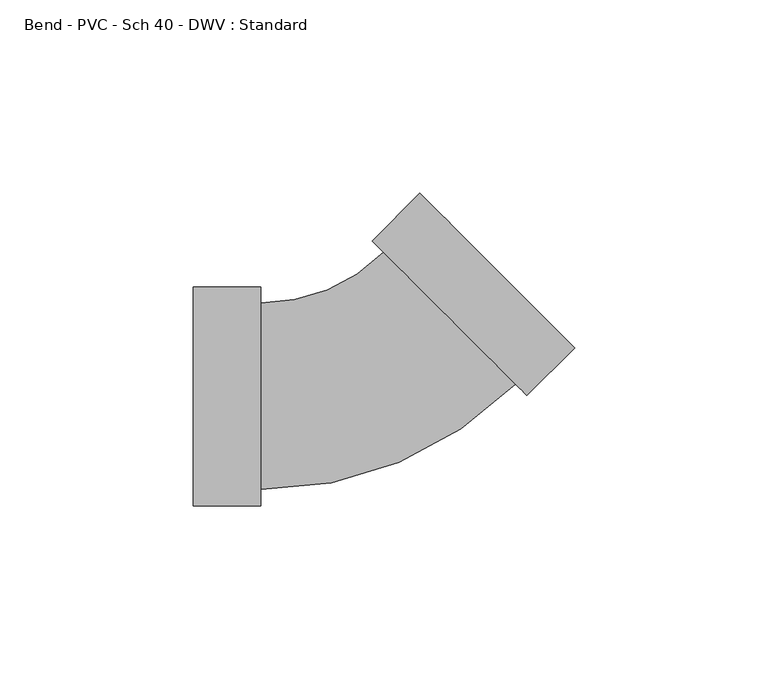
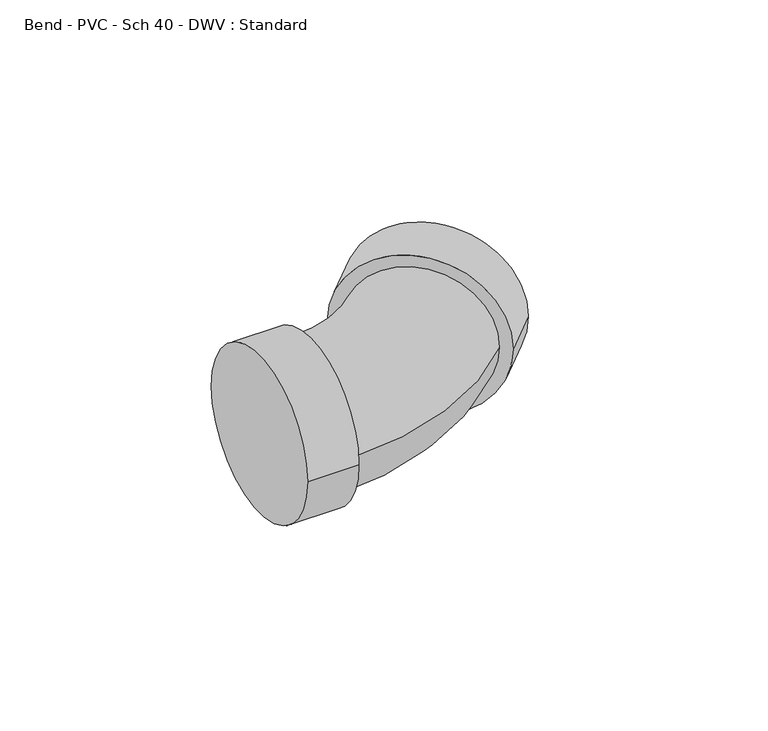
"""IFC4 building model written with IfcOpenShell, lengths in millimetres: pipe fitting geometry, Bend - PVC - Sch 40 - DWV : Standard."""

import ifcopenshell
import ifcopenshell.guid

model = None  # the IFC model being written
_history = None  # IfcOwnerHistory: only IFC2X3 demands one
_inside = {}  # id of a spatial element -> (the spatial element, [elements in it])
_under = {}  # id of a project, library or spatial element -> (it, [spatial elements below it])
_declared = {}  # id of a project -> (the project, [libraries it declares])
_typed = {}  # id of a type object -> (the type object, [elements of that type])
_made_of = {}  # id of a material, layer set ... -> (it, [elements and type objects made of it])


def new_model(schema):
    """Start an empty IFC model of exactly this schema.

    Asked for "IFC4X3", IfcOpenShell would pick the latest addendum, in which some entities
    have other attributes; the version numbers below select the first issue.
    IFC2X3 requires an IfcOwnerHistory on every rooted entity: one is made here for all.
    """
    global model, _history
    if schema == "IFC4X3":
        model = ifcopenshell.file(schema_version=(4, 3, 0, 0))
    else:
        model = ifcopenshell.file(schema=schema)
    _inside.clear()
    _under.clear()
    _declared.clear()
    _typed.clear()
    _made_of.clear()
    _history = None
    if model.schema == "IFC2X3":
        org = make("IfcOrganization", Name="unknown")
        user = make(
            "IfcPersonAndOrganization",
            ThePerson=make("IfcPerson", FamilyName="unknown"),
            TheOrganization=org,
        )
        app = make(
            "IfcApplication",
            ApplicationDeveloper=org,
            Version="unknown",
            ApplicationFullName="unknown",
            ApplicationIdentifier="unknown",
        )
        _history = make(
            "IfcOwnerHistory",
            OwningUser=user,
            OwningApplication=app,
            ChangeAction="ADDED",
            CreationDate=0,
        )
    return model


def make(cls, **values):
    """One entity of the class cls with the attributes given. An attribute that is None is left unset."""
    return model.create_entity(
        cls, **{name: value for name, value in values.items() if value is not None}
    )


def rooted(cls, **values):
    """An entity with a GlobalId (a new one), such as an element, a storey or a relation."""
    return make(cls, GlobalId=ifcopenshell.guid.new(), OwnerHistory=_history, **values)


def si_unit(unit_type, name, prefix=None):
    """IfcSIUnit, for example si_unit("LENGTHUNIT", "METRE", prefix="MILLI")."""
    return make("IfcSIUnit", UnitType=unit_type, Prefix=prefix, Name=name)


def assignment(units):
    """IfcUnitAssignment: the units of a project."""
    return None if units is None else make("IfcUnitAssignment", Units=units)


def point(xyz):
    """IfcCartesianPoint."""
    return None if xyz is None else make("IfcCartesianPoint", Coordinates=xyz)


def direction(xyz):
    """IfcDirection."""
    return None if xyz is None else make("IfcDirection", DirectionRatios=xyz)


def frame(location, z_axis=None, x_axis=None):
    """IfcAxis2Placement3D, a coordinate frame: its origin and axes. An axis left out is left unset."""
    return make(
        "IfcAxis2Placement3D",
        Location=point(location),
        Axis=direction(z_axis),
        RefDirection=direction(x_axis),
    )


def origin():
    """The frame at (0, 0, 0) with its axes left unset."""
    return frame((0.0, 0.0, 0.0))


def place(relative_to, where):
    """IfcLocalPlacement: puts the frame where relative to a parent placement (None: the world)."""
    return make(
        "IfcLocalPlacement", PlacementRelTo=relative_to, RelativePlacement=where
    )


def context(
    kind, dimensions, precision=None, world=None, true_north=None, identifier=None
):
    """IfcGeometricRepresentationContext, for example the 3D "Model" context."""
    return make(
        "IfcGeometricRepresentationContext",
        ContextIdentifier=identifier,
        ContextType=kind,
        CoordinateSpaceDimension=dimensions,
        Precision=precision,
        WorldCoordinateSystem=world,
        TrueNorth=true_north,
    )


def project(units=None, contexts=None):
    """IfcProject with its units and contexts."""
    return rooted(
        "IfcProject",
        Name="project",
        RepresentationContexts=contexts,
        UnitsInContext=assignment(units),
    )


def spatial(cls, under=None, at=None, **own):
    """A site, building, storey or space (cls), placed at a placement, below another one or the project."""
    s = rooted(cls, ObjectPlacement=at, **own)
    if under is not None:
        _under.setdefault(under.id(), (under, []))[1].append(s)
    return s


def circle_curve(where, radius):
    """IfcCircle in the frame where."""
    return make("IfcCircle", Position=where, Radius=radius)


def ellipse_curve(where, semi_axis1, semi_axis2):
    """IfcEllipse in the frame where."""
    return make(
        "IfcEllipse", Position=where, SemiAxis1=semi_axis1, SemiAxis2=semi_axis2
    )


def trimmed(basis, trim1, trim2, sense, master):
    """IfcTrimmedCurve: the piece of a basis curve between two trims."""
    return make(
        "IfcTrimmedCurve",
        BasisCurve=basis,
        Trim1=trim1,
        Trim2=trim2,
        SenseAgreement=sense,
        MasterRepresentation=master,
    )


def shape(context_of_items, identifier, shape_type, items):
    """IfcShapeRepresentation: the items that make up one representation, for example the "Body"."""
    return make(
        "IfcShapeRepresentation",
        ContextOfItems=context_of_items,
        RepresentationIdentifier=identifier,
        RepresentationType=shape_type,
        Items=items,
    )


def source(mapping_origin, context_of_items, identifier, shape_type, items):
    """IfcRepresentationMap: a shape defined once, which mapped items show again and again."""
    return make(
        "IfcRepresentationMap",
        MappingOrigin=mapping_origin,
        MappedRepresentation=shape(context_of_items, identifier, shape_type, items),
    )


def transform(
    local_origin,
    x_axis=None,
    y_axis=None,
    z_axis=None,
    scale=None,
    scale2=None,
    scale3=None,
    uniform=True,
):
    """IfcCartesianTransformationOperator3D, or its non-uniform kind. x_axis, y_axis, z_axis: its Axis1, 2, 3."""
    if uniform:
        return make(
            "IfcCartesianTransformationOperator3D",
            Axis1=direction(x_axis),
            Axis2=direction(y_axis),
            LocalOrigin=point(local_origin),
            Scale=scale,
            Axis3=direction(z_axis),
        )
    return make(
        "IfcCartesianTransformationOperator3DnonUniform",
        Axis1=direction(x_axis),
        Axis2=direction(y_axis),
        LocalOrigin=point(local_origin),
        Scale=scale,
        Axis3=direction(z_axis),
        Scale2=scale2,
        Scale3=scale3,
    )


def mapped(mapping_source, mapping_target):
    """IfcMappedItem: shows the shape of a source again, moved by a transform."""
    return make(
        "IfcMappedItem", MappingSource=mapping_source, MappingTarget=mapping_target
    )


def made_of(thing, what):
    """Note that an element or type object is made of a material, layer set ...; save() writes the relation."""
    if what is not None:
        _made_of.setdefault(what.id(), (what, []))[1].append(thing)
    return thing


def element(
    cls,
    number,
    at=None,
    inside=None,
    cuts=None,
    type_object=None,
    material=None,
    context=None,
    identifier="Body",
    shape_type=None,
    held_by="IfcProductDefinitionShape",
    body=None,
    shapes=None,
    **own,
):
    """One element of the class cls, such as IfcWall. Its Tag is "e" and its number.

    at: its placement. inside: the storey or other place that contains it. cuts: it is an
    opening in that element (IfcRelVoidsElement). A single representation is given by context,
    identifier, shape_type and body (its items); several are given by shapes. held_by: the class
    of the entity that holds the representations. save() writes the other relations.
    """
    e = rooted(cls, Tag="e%d" % number, ObjectPlacement=at, **own)
    if body is not None:
        shapes = [shape(context, identifier, shape_type, body)]
    if shapes is not None:
        e.Representation = make(held_by, Representations=shapes)
    if inside is not None:
        _inside.setdefault(inside.id(), (inside, []))[1].append(e)
    if cuts is not None:
        rooted(
            "IfcRelVoidsElement", RelatingBuildingElement=cuts, RelatedOpeningElement=e
        )
    if type_object is not None:
        _typed.setdefault(type_object.id(), (type_object, []))[1].append(e)
    return made_of(e, material)


def aggregate(whole, parts):
    """IfcRelAggregates: a whole, such as a stair, and the parts it consists of."""
    return rooted("IfcRelAggregates", RelatingObject=whole, RelatedObjects=parts)


def save(model, path):
    """Write the relations noted so far, then the file.

    IfcRelAggregates (storeys below a building ...), IfcRelContainedInSpatialStructure (elements
    in a storey), IfcRelDefinesByType, IfcRelAssociatesMaterial and IfcRelDeclares: one each for
    every whole, place, type object, material and project.
    """
    for whole, parts in _under.values():
        aggregate(whole, parts)
    for where, things in _inside.values():
        rooted(
            "IfcRelContainedInSpatialStructure",
            RelatedElements=things,
            RelatingStructure=where,
        )
    for kind, things in _typed.values():
        rooted("IfcRelDefinesByType", RelatedObjects=things, RelatingType=kind)
    for what, things in _made_of.values():
        rooted("IfcRelAssociatesMaterial", RelatedObjects=things, RelatingMaterial=what)
    for by, libraries in _declared.values():
        rooted("IfcRelDeclares", RelatingContext=by, RelatedDefinitions=libraries)
    model.write(path)


def plane_surface(at):
    """IfcPlane: the flat surface through the origin of the frame at, square to its z axis."""
    return make("IfcPlane", Position=at)


def cylinder_surface(at, radius):
    """IfcCylindricalSurface: all points at the distance radius from the z axis of the frame at."""
    return make("IfcCylindricalSurface", Position=at, Radius=radius)


def revolved_surface(curve, axis_point, axis_direction):
    """IfcSurfaceOfRevolution: the curve turned about the line through axis_point along axis_direction."""
    return make(
        "IfcSurfaceOfRevolution",
        SweptCurve=make("IfcArbitraryOpenProfileDef", ProfileType="CURVE", Curve=curve),
        AxisPosition=make("IfcAxis1Placement", Location=point(axis_point), Axis=direction(axis_direction)),
    )


def advanced_brep(points, edges, surfaces, faces):
    """IfcAdvancedBrep: a solid bounded by faces that lie on surfaces and meet in shared edges.

    An edge is (start, end): straight between two places in points (the first is 0);
    or (start, end, curve); or (start, end, curve, False) where it runs against its curve.
    A face is (place in surfaces, loops), or (place, loops, False) where it looks against
    its surface's normal. A loop lists edges by number (the first is 1), with a minus sign
    where the edge is run from its end to its start. The first loop is the outer one.
    """
    corners = [point(p) for p in points]
    vertices = [make("IfcVertexPoint", VertexGeometry=c) for c in corners]
    made = []
    for start, end, *more in edges:
        made.append(
            make(
                "IfcEdgeCurve",
                EdgeStart=vertices[start],
                EdgeEnd=vertices[end],
                EdgeGeometry=more[0] if more else make("IfcPolyline", Points=[corners[start], corners[end]]),
                SameSense=more[1] if len(more) > 1 else True,
            )
        )
    hull = []
    for where, loops, *sense in faces:
        bounds = []
        for j, loop in enumerate(loops):
            ring = [make("IfcOrientedEdge", EdgeElement=made[abs(k) - 1], Orientation=k > 0) for k in loop]
            bounds.append(
                make(
                    "IfcFaceOuterBound" if j == 0 else "IfcFaceBound",
                    Bound=make("IfcEdgeLoop", EdgeList=ring),
                    Orientation=True,
                )
            )
        hull.append(make("IfcAdvancedFace", Bounds=bounds, FaceSurface=surfaces[where], SameSense=sense[0] if sense else True))
    return make("IfcAdvancedBrep", Outer=make("IfcClosedShell", CfsFaces=hull))


def bend_pvc_sch_40_dwv_standard_7ca662e2(model_context):
    return source(origin(), model_context, "Body", "AdvancedBrep", [
        advanced_brep(
        [(-46.0248, -28.2829, 0.0), (-46.0248, 28.2829, 0.0), (-28.575, -28.2829, 0.0), (-28.575, 28.2829, 0.0), (-28.575, -24.13, 0.0), (-28.575, 24.13, 0.0), (3.1448026, 37.2679184, 0.0), (37.2682073, 3.1413767, 0.0), (40.2046161, 0.204698, 0.0), (0.2083938, 40.2045971, 0.0), (52.5440551, 12.5430028, 0.0), (12.5478328, 52.5429019, 0.0)],
        [
            (0, 1, circle_curve(frame((-46.0248, 0.0, 0.0), z_axis=(-1.0, 0.0, 0.0), x_axis=(0.0, 1.0, 0.0)), 28.2829)),
            (1, 0, circle_curve(frame((-46.0248, 0.0, 0.0), z_axis=(-1.0, 0.0, 0.0), x_axis=(0.0, 1.0, 0.0)), 28.2829)),
            (2, 3, circle_curve(frame((-28.575, 0.0, 0.0), z_axis=(1.0, 0.0, 0.0), x_axis=(0.0, 1.0, 0.0)), 28.2829)),
            (3, 2, circle_curve(frame((-28.575, 0.0, 0.0), z_axis=(1.0, 0.0, 0.0), x_axis=(0.0, 1.0, 0.0)), 28.2829)),
            (4, 5, circle_curve(frame((-28.575, 0.0, 0.0), z_axis=(-1.0, 0.0, 0.0), x_axis=(0.0, 1.0, 0.0)), 24.13)),
            (5, 4, circle_curve(frame((-28.575, 0.0, 0.0), z_axis=(-1.0, 0.0, 0.0), x_axis=(0.0, 1.0, 0.0)), 24.13)),
            (0, 2),
            (3, 1),
            (6, 5, circle_curve(frame((-28.575, 68.9906369, 0.0), z_axis=(0.0, 0.0, -1.0), x_axis=(0.0, -1.0, 0.0)), 44.8606369)),
            (4, 7, circle_curve(frame((-28.575, 68.9906369, 0.0), z_axis=(0.0, 0.0, 1.0), x_axis=(0.0, -1.0, 0.0)), 93.1206369)),
            (7, 6, circle_curve(frame((20.2065049, 20.2046476, 0.0), z_axis=(-0.7071392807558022, -0.7070742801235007, 0.0), x_axis=(-0.7070742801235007, 0.7071392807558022, 0.0)), 24.13)),
            (6, 7, circle_curve(frame((20.2065049, 20.2046476, 0.0), z_axis=(-0.7071392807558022, -0.7070742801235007, 0.0), x_axis=(-0.7070742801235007, 0.7071392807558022, 0.0)), 24.13)),
            (8, 9, circle_curve(frame((20.2065049, 20.2046476, 0.0), z_axis=(-0.7071392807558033, -0.7070742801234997, 0.0), x_axis=(-0.7070742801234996, 0.7071392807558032, 0.0)), 28.2829)),
            (9, 8, circle_curve(frame((20.2065049, 20.2046476, 0.0), z_axis=(-0.7071392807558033, -0.7070742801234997, 0.0), x_axis=(-0.7070742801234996, 0.7071392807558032, 0.0)), 28.2829)),
            (10, 11, circle_curve(frame((32.545944, 32.5429523, 0.0), z_axis=(0.7071392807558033, 0.7070742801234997, 0.0), x_axis=(-0.7070742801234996, 0.7071392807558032, 0.0)), 28.2829)),
            (11, 10, circle_curve(frame((32.545944, 32.5429523, 0.0), z_axis=(0.7071392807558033, 0.7070742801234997, 0.0), x_axis=(-0.7070742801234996, 0.7071392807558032, 0.0)), 28.2829)),
            (8, 10),
            (11, 9),
        ],
        [
            plane_surface(frame((-46.0248, 0.0, 0.0), z_axis=(-1.0, 0.0, 0.0), x_axis=(0.0, 0.0, 1.0))),
            plane_surface(frame((-28.575, 0.0, 0.0), z_axis=(1.0, 0.0, 0.0), x_axis=(0.0, 0.0, 1.0))),
            cylinder_surface(frame((-46.0248, 0.0, 0.0), z_axis=(-1.0, 0.0, 0.0), x_axis=(0.0, 1.0, 0.0)), 28.2829),
            revolved_surface(trimmed(ellipse_curve(frame((-28.575, 0.0, 0.0), z_axis=(-1.0, 0.0, 0.0), x_axis=(0.0, 1.0, 0.0)), 24.13, 24.13), [point((-28.575, -24.13, 0.0))], [point((-28.575, 24.13, 0.0))], True, "CARTESIAN"), (-28.575, 68.9906369, 0.0), (0.0, 0.0, 1.0)),
            revolved_surface(trimmed(ellipse_curve(frame((-28.575, 0.0, 0.0), z_axis=(-1.0, 0.0, 0.0), x_axis=(0.0, 1.0, 0.0)), 24.13, 24.13), [point((-28.575, 24.13, 0.0))], [point((-28.575, -24.13, 0.0))], True, "CARTESIAN"), (-28.575, 68.9906369, 0.0), (0.0, 0.0, 1.0)),
            plane_surface(frame((20.2065049, 20.2046476, 0.0), z_axis=(-0.7071392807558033, -0.7070742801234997, 0.0), x_axis=(0.0, 0.0, 1.0))),
            plane_surface(frame((32.545944, 32.5429523, 0.0), z_axis=(0.7071392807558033, 0.7070742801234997, 0.0), x_axis=(0.0, 0.0, 1.0))),
            cylinder_surface(frame((20.2065049, 20.2046476, 0.0), z_axis=(-0.7071392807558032, -0.7070742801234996, 0.0), x_axis=(-0.7070742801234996, 0.7071392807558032, 0.0)), 28.2829),
        ],
        [
            (0, [[1, 2]]),
            (1, [[3, 4], [5, 6]]),
            (2, [[-1, 7, -4, 8]]),
            (2, [[-2, -8, -3, -7]]),
            (3, [[9, -5, 10, 11]]),
            (4, [[-9, 12, -10, -6]]),
            (5, [[13, 14], [-11, -12]]),
            (6, [[15, 16]]),
            (7, [[-13, 17, -16, 18]]),
            (7, [[-14, -18, -15, -17]]),
        ],
    ),
    ])


if __name__ == "__main__":
    model = new_model("IFC4")
    model_context = context("Model", 3, world=origin())
    ifc_project = project(units=[si_unit("LENGTHUNIT", "METRE", prefix="MILLI")], contexts=[model_context])
    site = spatial("IfcSite", under=ifc_project)
    building = spatial("IfcBuilding", under=site)
    placement = place(None, origin())
    bend_pvc_sch_40_dwv_standard_shape = bend_pvc_sch_40_dwv_standard_7ca662e2(model_context)
    element("IfcPipeFitting", 1, ObjectType="Bend - PVC - Sch 40 - DWV : Standard", at=placement, inside=building, context=model_context, shape_type="MappedRepresentation", body=[
        mapped(bend_pvc_sch_40_dwv_standard_shape, transform((0.0, 0.0, 0.0), x_axis=(1.0, 0.0, 0.0), y_axis=(0.0, 1.0, 0.0), z_axis=(0.0, 0.0, 1.0))),
    ])
    save(model, "model.ifc")
